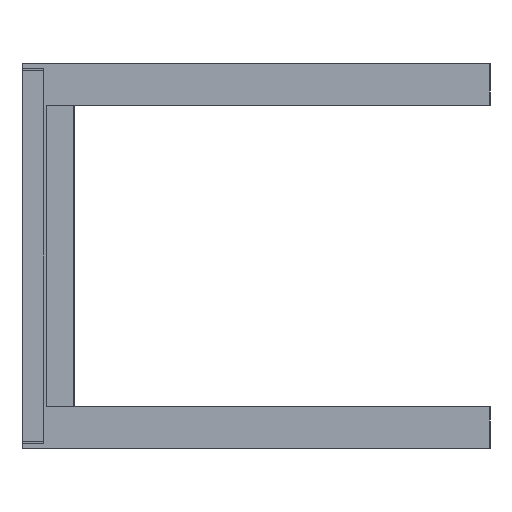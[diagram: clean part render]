
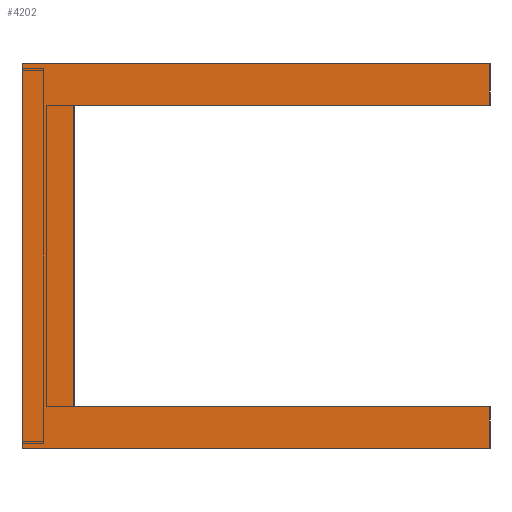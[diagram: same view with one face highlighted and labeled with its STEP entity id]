
A CAD part, left-side view. The second image highlights one B-rep face of the part: STEP entity #4202.
In plain terms, the highlighted planar face has unit normal (-1, 0, 0).
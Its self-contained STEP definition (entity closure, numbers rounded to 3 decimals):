
#344=FACE_OUTER_BOUND('',#532,.T.);
#532=EDGE_LOOP('',(#3785,#3786,#3787,#3788,#3789,#3790,#3791,#3792));
#1082=LINE('',#6418,#1670);
#1096=LINE('',#6445,#1684);
#1101=LINE('',#6455,#1689);
#1103=LINE('',#6459,#1691);
#1110=LINE('',#6473,#1698);
#1113=LINE('',#6480,#1701);
#1114=LINE('',#6481,#1702);
#1115=LINE('',#6482,#1703);
#1670=VECTOR('',#5287,10.);
#1684=VECTOR('',#5311,10.);
#1689=VECTOR('',#5320,10.);
#1691=VECTOR('',#5324,10.);
#1698=VECTOR('',#5337,10.);
#1701=VECTOR('',#5344,10.);
#1702=VECTOR('',#5345,10.);
#1703=VECTOR('',#5346,10.);
#2051=VERTEX_POINT('',#6415);
#2052=VERTEX_POINT('',#6417);
#2057=VERTEX_POINT('',#6438);
#2060=VERTEX_POINT('',#6443);
#2063=VERTEX_POINT('',#6453);
#2064=VERTEX_POINT('',#6457);
#2069=VERTEX_POINT('',#6478);
#2070=VERTEX_POINT('',#6479);
#2618=EDGE_CURVE('',#2052,#2051,#1082,.T.);
#2632=EDGE_CURVE('',#2060,#2057,#1096,.T.);
#2637=EDGE_CURVE('',#2063,#2052,#1101,.T.);
#2639=EDGE_CURVE('',#2063,#2064,#1103,.T.);
#2646=EDGE_CURVE('',#2064,#2060,#1110,.T.);
#2649=EDGE_CURVE('',#2069,#2070,#1113,.T.);
#2650=EDGE_CURVE('',#2070,#2057,#1114,.T.);
#2651=EDGE_CURVE('',#2069,#2051,#1115,.T.);
#3785=ORIENTED_EDGE('',*,*,#2649,.T.);
#3786=ORIENTED_EDGE('',*,*,#2650,.T.);
#3787=ORIENTED_EDGE('',*,*,#2632,.F.);
#3788=ORIENTED_EDGE('',*,*,#2646,.F.);
#3789=ORIENTED_EDGE('',*,*,#2639,.F.);
#3790=ORIENTED_EDGE('',*,*,#2637,.T.);
#3791=ORIENTED_EDGE('',*,*,#2618,.T.);
#3792=ORIENTED_EDGE('',*,*,#2651,.F.);
#4017=PLANE('',#4407);
#4202=ADVANCED_FACE('',(#344),#4017,.T.);
#4407=AXIS2_PLACEMENT_3D('',#6477,#5342,#5343);
#5287=DIRECTION('',(0.,0.,1.));
#5311=DIRECTION('',(0.,0.,1.));
#5320=DIRECTION('',(0.,1.,0.));
#5324=DIRECTION('',(0.,0.,-1.));
#5337=DIRECTION('',(0.,1.,0.));
#5342=DIRECTION('center_axis',(-1.,0.,0.));
#5343=DIRECTION('ref_axis',(0.,0.,1.));
#5344=DIRECTION('',(0.,0.,1.));
#5345=DIRECTION('',(0.,1.,0.));
#5346=DIRECTION('',(0.,1.,0.));
#6415=CARTESIAN_POINT('',(-917.,400.,145.));
#6417=CARTESIAN_POINT('',(-917.,400.,-145.));
#6418=CARTESIAN_POINT('',(-917.,400.,-185.));
#6438=CARTESIAN_POINT('',(-917.,450.,185.));
#6443=CARTESIAN_POINT('',(-917.,450.,-185.));
#6445=CARTESIAN_POINT('',(-917.,450.,-185.));
#6453=CARTESIAN_POINT('',(-917.,0.,-145.));
#6455=CARTESIAN_POINT('',(-917.,0.,-145.));
#6457=CARTESIAN_POINT('',(-917.,0.,-185.));
#6459=CARTESIAN_POINT('',(-917.,0.,-145.));
#6473=CARTESIAN_POINT('',(-917.,0.,-185.));
#6477=CARTESIAN_POINT('Origin',(-917.,0.,145.));
#6478=CARTESIAN_POINT('',(-917.,0.,145.));
#6479=CARTESIAN_POINT('',(-917.,0.,185.));
#6480=CARTESIAN_POINT('',(-917.,0.,145.));
#6481=CARTESIAN_POINT('',(-917.,0.,185.));
#6482=CARTESIAN_POINT('',(-917.,0.,145.));
